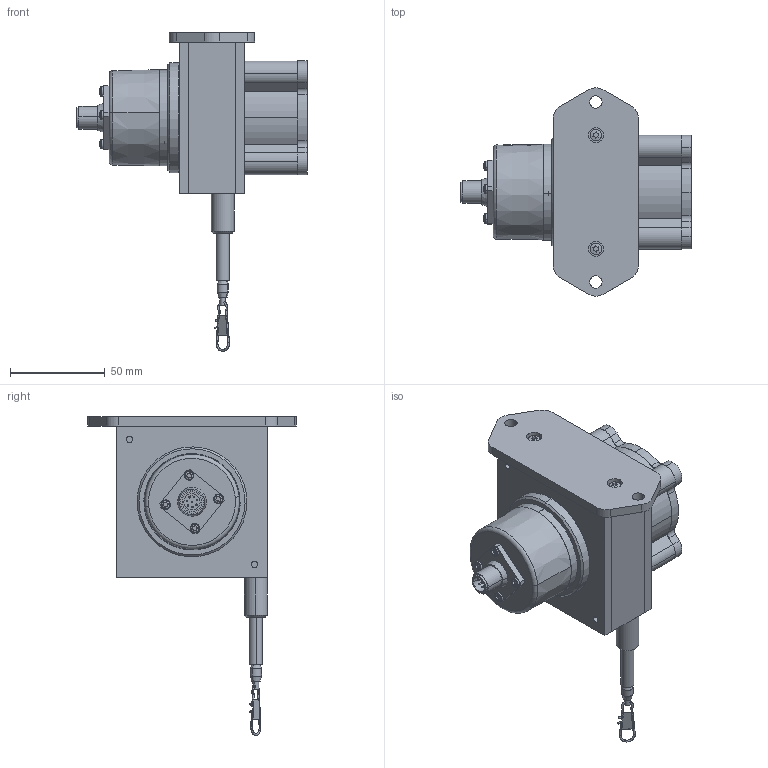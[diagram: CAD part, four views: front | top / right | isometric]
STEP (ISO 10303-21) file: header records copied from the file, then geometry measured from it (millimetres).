
FILE_DESCRIPTION (( 'STEP AP214' ), '1' );
FILE_NAME ('D8.4B1.0100.0053.0000.STEP', '2009-04-01T08:47:11', ( 'admin' ), ( 'Fritz Kübler GmbH' ), 'SwSTEP 2.0', 'SolidWorks 2008', '' );
FILE_SCHEMA (( 'AUTOMOTIVE_DESIGN' ));
Length unit declared in the file: millimetre
Products named in the file (1): D8.4B1.0100.0053.0000
Bounding box: 121.5 x 110 x 168.32 mm (x, y, z)
Volume: 187405.7 mm3; surface area: 109171.7 mm2
Topology: 24 solids, 24 shells, 883 faces, 2134 edges, 1324 vertices
Faces by surface type: cylinder 325, plane 322, cone 130, torus 47, sphere 31, bspline 28
Entity records: 37397 total; most frequent: CARTESIAN_POINT 6555, DIRECTION 4592, ORIENTED_EDGE 4164, EDGE_CURVE 2082, AXIS2_PLACEMENT_3D 1807, VERTEX_POINT 1308, EDGE_LOOP 1030, VECTOR 978
